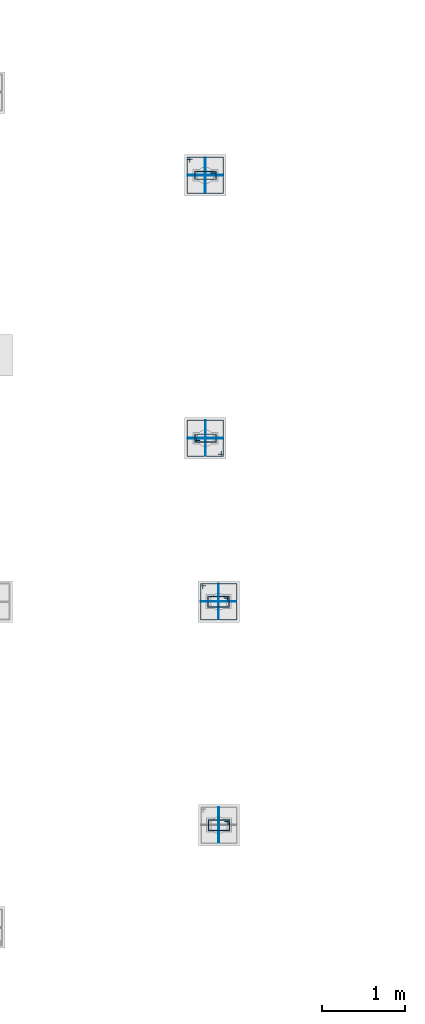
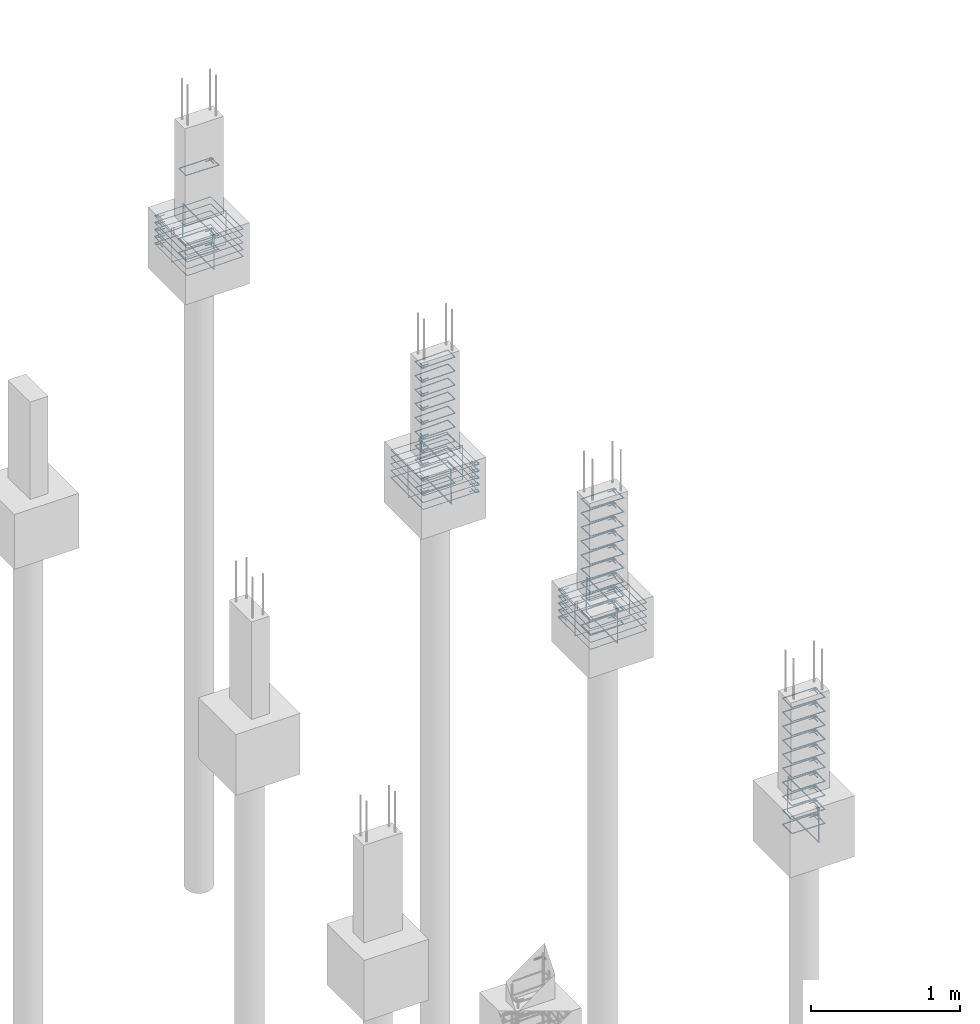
# One storey, part 104 of 119: 55 reinforcing bars.
"""IFC4 building model written with IfcOpenShell, lengths in centimetres."""

from ifc_helpers import new_model, entity, si_unit, derived_unit, frame, origin_with_axes, place, context, project, spatial, source, transform, mapped, element, save


model = new_model("IFC4")

# Units and contexts
model_context = context("Model", 3, precision=1e-05, world=origin_with_axes(), identifier="Body")
ifc_project = project(units=[si_unit("LENGTHUNIT", "METRE", prefix="CENTI"), si_unit("VOLUMEUNIT", "CUBIC_METRE"), si_unit("AREAUNIT", "SQUARE_METRE"), si_unit("POWERUNIT", "WATT"), si_unit("LUMINOUSFLUXUNIT", "LUMEN"), si_unit("ELECTRICCURRENTUNIT", "AMPERE"), si_unit("PRESSUREUNIT", "PASCAL", prefix="KILO"), si_unit("MASSUNIT", "GRAM", prefix="KILO"), si_unit("PLANEANGLEUNIT", "RADIAN"), derived_unit("VOLUMETRICFLOWRATEUNIT", [(si_unit("LENGTHUNIT", "METRE"), 3), (si_unit("TIMEUNIT", "SECOND"), -1)])], contexts=[model_context])

# Site, building, storey
site_placement = place(None, frame((-4000.0, 0.0, 0.0), z_axis=(0.0, 0.0, 1.0), x_axis=(1.0, 0.0, 0.0)))
site = spatial("IfcSite", under=ifc_project, at=site_placement, Name="PADRÃO")
building_placement = place(site_placement, frame((0.0, 0.0, -14.0)))
building = spatial("IfcBuilding", under=site, at=building_placement, Name="CRECHE PRÉ-ESCOLA TIPO 2")
storey_placement = place(building_placement, origin_with_axes())
storey = spatial("IfcBuildingStorey", under=building, at=storey_placement, Name="FUNDAÇÃO", CompositionType="ELEMENT", Elevation=-14.0)

# Reinforcing bars
shared_shape_1 = source(origin_with_axes(), model_context, "Body", "AdvancedSweptSolid", [
    entity("IfcSweptDiskSolid", entity("IfcCompositeCurve", [entity("IfcCompositeCurveSegment", "CONTINUOUS", True, entity("IfcPolyline", [entity("IfcCartesianPoint", [4.25, 21.75, 0.0]), entity("IfcCartesianPoint", [4.25, 27.75, 0.0])])), entity("IfcCompositeCurveSegment", "CONTINUOUS", True, entity("IfcPolyline", [entity("IfcCartesianPoint", [4.25, 27.75, 0.0]), entity("IfcCartesianPoint", [2.25, 27.75, 0.0])])), entity("IfcCompositeCurveSegment", "CONTINUOUS", True, entity("IfcPolyline", [entity("IfcCartesianPoint", [2.25, 27.75, 0.0]), entity("IfcCartesianPoint", [2.25, 2.25, 0.0])])), entity("IfcCompositeCurveSegment", "CONTINUOUS", True, entity("IfcPolyline", [entity("IfcCartesianPoint", [2.25, 2.25, 0.0]), entity("IfcCartesianPoint", [14.75, 2.25, 0.0])])), entity("IfcCompositeCurveSegment", "CONTINUOUS", True, entity("IfcPolyline", [entity("IfcCartesianPoint", [14.75, 2.25, 0.0]), entity("IfcCartesianPoint", [14.75, 27.75, -0.5])])), entity("IfcCompositeCurveSegment", "CONTINUOUS", True, entity("IfcPolyline", [entity("IfcCartesianPoint", [14.75, 27.75, -0.5]), entity("IfcCartesianPoint", [2.25, 27.75, -0.5])])), entity("IfcCompositeCurveSegment", "CONTINUOUS", True, entity("IfcPolyline", [entity("IfcCartesianPoint", [2.25, 27.75, -0.5]), entity("IfcCartesianPoint", [2.25, 25.75, -0.5])])), entity("IfcCompositeCurveSegment", "CONTINUOUS", True, entity("IfcPolyline", [entity("IfcCartesianPoint", [2.25, 25.75, -0.5]), entity("IfcCartesianPoint", [8.25, 25.75, -0.5])]))], False), 0.25),
])
for number, where, z_axis, x_axis, name in (
    (1, (1377.84, 3478.52, -51.75), (0.0, 0.0, 1.0), (0.0, -1.0, 0.0), "P41 - Estribo"),
    (2, (1377.84, 3478.52, -40.25), (0.0, 0.0, 1.0), (0.0, -1.0, 0.0), "P41 - Estribo"),
    (3, (1377.84, 3478.52, -28.75), (0.0, 0.0, 1.0), (0.0, -1.0, 0.0), "P41 - Estribo"),
    (4, (1377.84, 3478.52, -63.25), (0.0, 0.0, 1.0), (0.0, -1.0, 0.0), "P41 - Estribo"),
    (5, (1377.84, 3478.52, -86.25), (0.0, 0.0, 1.0), (0.0, -1.0, 0.0), "P41 - Estribo"),
    (6, (1377.84, 3478.52, -5.75), (0.0, 0.0, 1.0), (0.0, -1.0, 0.0), "P41 - Estribo"),
    (7, (1377.84, 3478.52, -17.25), (0.0, 0.0, 1.0), (0.0, -1.0, 0.0), "P41 - Estribo"),
    (8, (1377.84, 3478.52, -97.75), (0.0, 0.0, 1.0), (0.0, -1.0, 0.0), "P41 - Estribo"),
    (9, (1377.84, 3478.52, -109.25), (0.0, 0.0, 1.0), (0.0, -1.0, 0.0), "P41 - Estribo"),
    (10, (1377.84, 3478.52, -74.75), (0.0, 0.0, 1.0), (0.0, -1.0, 0.0), "P41 - Estribo"),
):
    element("IfcReinforcingBar", number, at=place(storey_placement, frame(where, z_axis=z_axis, x_axis=x_axis)), inside=storey, Name=name, BarLength=0.0, CrossSectionArea=1.9634954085e-05, NominalDiameter=0.5, PredefinedType="MAIN", context=model_context, shape_type="MappedRepresentation", body=[
        mapped(shared_shape_1, transform((0.0, 0.0, 0.0), scale=1.0)),
    ])
shared_shape_2 = source(origin_with_axes(), model_context, "Body", "AdvancedSweptSolid", [
    entity("IfcSweptDiskSolid", entity("IfcCompositeCurve", [entity("IfcCompositeCurveSegment", "CONTINUOUS", True, entity("IfcPolyline", [entity("IfcCartesianPoint", [1373.675, 3485.445, 0.0]), entity("IfcCartesianPoint", [1373.675, 3491.705, 0.0])])), entity("IfcCompositeCurveSegment", "CONTINUOUS", True, entity("IfcPolyline", [entity("IfcCartesianPoint", [1373.675, 3491.705, 0.0]), entity("IfcCartesianPoint", [1371.155, 3491.705, 0.0])])), entity("IfcCompositeCurveSegment", "CONTINUOUS", True, entity("IfcPolyline", [entity("IfcCartesianPoint", [1371.155, 3491.705, 0.0]), entity("IfcCartesianPoint", [1371.155, 3448.335, 0.0])])), entity("IfcCompositeCurveSegment", "CONTINUOUS", True, entity("IfcPolyline", [entity("IfcCartesianPoint", [1371.155, 3448.335, 0.0]), entity("IfcCartesianPoint", [1414.525, 3448.335, 0.63])])), entity("IfcCompositeCurveSegment", "CONTINUOUS", True, entity("IfcPolyline", [entity("IfcCartesianPoint", [1414.525, 3448.335, 0.63]), entity("IfcCartesianPoint", [1414.525, 3491.705, 0.63])])), entity("IfcCompositeCurveSegment", "CONTINUOUS", True, entity("IfcPolyline", [entity("IfcCartesianPoint", [1414.525, 3491.705, 0.63]), entity("IfcCartesianPoint", [1371.155, 3491.705, 0.63])])), entity("IfcCompositeCurveSegment", "CONTINUOUS", True, entity("IfcPolyline", [entity("IfcCartesianPoint", [1371.155, 3491.705, 0.63]), entity("IfcCartesianPoint", [1371.155, 3489.185, 0.63])])), entity("IfcCompositeCurveSegment", "CONTINUOUS", True, entity("IfcPolyline", [entity("IfcCartesianPoint", [1371.155, 3489.185, 0.63]), entity("IfcCartesianPoint", [1377.415, 3489.185, 0.63])]))], False), 0.315),
])
for number, where, z_axis, x_axis, name in (
    (11, (0.0, 0.0, -86.575), (0.0, 0.0, 1.0), (1.0, 0.0, 0.0), "P41 - Blocos (estribos)"),
    (12, (0.0, 0.0, -92.225), (0.0, 0.0, 1.0), (1.0, 0.0, 0.0), "P41 - Blocos (estribos)"),
    (13, (0.0, 0.0, -97.875), (0.0, 0.0, 1.0), (1.0, 0.0, 0.0), "P41 - Blocos (estribos)"),
    (14, (0.0, 0.0, -103.525), (0.0, 0.0, 1.0), (1.0, 0.0, 0.0), "P41 - Blocos (estribos)"),
    (15, (0.0, 0.0, -109.175), (0.0, 0.0, 1.0), (1.0, 0.0, 0.0), "P41 - Blocos (estribos)"),
):
    element("IfcReinforcingBar", number, at=place(storey_placement, frame(where, z_axis=z_axis, x_axis=x_axis)), inside=storey, Name=name, BarLength=0.0, CrossSectionArea=3.1172453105e-05, NominalDiameter=0.63, PredefinedType="MAIN", context=model_context, shape_type="MappedRepresentation", body=[
        mapped(shared_shape_2, transform((0.0, 0.0, 0.0), scale=1.0)),
    ])
shared_shape_3 = source(origin_with_axes(), model_context, "Body", "AdvancedSweptSolid", [
    entity("IfcSweptDiskSolid", entity("IfcCompositeCurve", [entity("IfcCompositeCurveSegment", "CONTINUOUS", True, entity("IfcPolyline", [entity("IfcCartesianPoint", [-15.12, -12.0, 0.0]), entity("IfcCartesianPoint", [-21.12, -12.0, 0.0])])), entity("IfcCompositeCurveSegment", "CONTINUOUS", True, entity("IfcPolyline", [entity("IfcCartesianPoint", [-21.12, -12.0, 0.0]), entity("IfcCartesianPoint", [-21.12, -14.0, 0.0])])), entity("IfcCompositeCurveSegment", "CONTINUOUS", True, entity("IfcPolyline", [entity("IfcCartesianPoint", [-21.12, -14.0, 0.0]), entity("IfcCartesianPoint", [21.12, -14.0, 0.0])])), entity("IfcCompositeCurveSegment", "CONTINUOUS", True, entity("IfcPolyline", [entity("IfcCartesianPoint", [21.12, -14.0, 0.0]), entity("IfcCartesianPoint", [21.12, 14.0, 0.5])])), entity("IfcCompositeCurveSegment", "CONTINUOUS", True, entity("IfcPolyline", [entity("IfcCartesianPoint", [21.12, 14.0, 0.5]), entity("IfcCartesianPoint", [-21.12, 14.0, 0.5])])), entity("IfcCompositeCurveSegment", "CONTINUOUS", True, entity("IfcPolyline", [entity("IfcCartesianPoint", [-21.12, 14.0, 0.5]), entity("IfcCartesianPoint", [-21.12, -14.0, 0.5])])), entity("IfcCompositeCurveSegment", "CONTINUOUS", True, entity("IfcPolyline", [entity("IfcCartesianPoint", [-21.12, -14.0, 0.5]), entity("IfcCartesianPoint", [-19.12, -14.0, 0.5])])), entity("IfcCompositeCurveSegment", "CONTINUOUS", True, entity("IfcPolyline", [entity("IfcCartesianPoint", [-19.12, -14.0, 0.5]), entity("IfcCartesianPoint", [-19.12, -8.0, 0.5])]))], False), 0.25),
])
reinforcing_bar_1_placement = place(storey_placement, frame((1392.84, 3470.02, -97.75), z_axis=(0.0, 1.0, 0.0), x_axis=(1.0, 0.0, 0.0)))
element("IfcReinforcingBar", 16, at=reinforcing_bar_1_placement, inside=storey, Name="P41 - Blocos (estribos)", BarLength=0.0, CrossSectionArea=1.9634954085e-05, NominalDiameter=0.5, PredefinedType="MAIN", context=model_context, shape_type="MappedRepresentation", body=[
    mapped(shared_shape_3, transform((0.0, 0.0, 0.0), scale=1.0)),
])
shared_shape_4 = source(origin_with_axes(), model_context, "Body", "AdvancedSweptSolid", [
    entity("IfcSweptDiskSolid", entity("IfcCompositeCurve", [entity("IfcCompositeCurveSegment", "CONTINUOUS", True, entity("IfcPolyline", [entity("IfcCartesianPoint", [-15.12, -12.0, 0.0]), entity("IfcCartesianPoint", [-21.12, -12.0, 0.0])])), entity("IfcCompositeCurveSegment", "CONTINUOUS", True, entity("IfcPolyline", [entity("IfcCartesianPoint", [-21.12, -12.0, 0.0]), entity("IfcCartesianPoint", [-21.12, -14.0, 0.0])])), entity("IfcCompositeCurveSegment", "CONTINUOUS", True, entity("IfcPolyline", [entity("IfcCartesianPoint", [-21.12, -14.0, 0.0]), entity("IfcCartesianPoint", [21.12, -14.0, 0.0])])), entity("IfcCompositeCurveSegment", "CONTINUOUS", True, entity("IfcPolyline", [entity("IfcCartesianPoint", [21.12, -14.0, 0.0]), entity("IfcCartesianPoint", [21.12, 14.0, 0.5])])), entity("IfcCompositeCurveSegment", "CONTINUOUS", True, entity("IfcPolyline", [entity("IfcCartesianPoint", [21.12, 14.0, 0.5]), entity("IfcCartesianPoint", [-21.12, 14.0, 0.5])])), entity("IfcCompositeCurveSegment", "CONTINUOUS", True, entity("IfcPolyline", [entity("IfcCartesianPoint", [-21.12, 14.0, 0.5]), entity("IfcCartesianPoint", [-21.12, -14.0, 0.5])])), entity("IfcCompositeCurveSegment", "CONTINUOUS", True, entity("IfcPolyline", [entity("IfcCartesianPoint", [-21.12, -14.0, 0.5]), entity("IfcCartesianPoint", [-19.12, -14.0, 0.5])])), entity("IfcCompositeCurveSegment", "CONTINUOUS", True, entity("IfcPolyline", [entity("IfcCartesianPoint", [-19.12, -14.0, 0.5]), entity("IfcCartesianPoint", [-19.12, -8.0, 0.5])]))], False), 0.25),
])
reinforcing_bar_2_placement = place(storey_placement, frame((1392.84, 3470.02, -97.75), z_axis=(-1.0, 0.0, 0.0), x_axis=(0.0, 1.0, 0.0)))
element("IfcReinforcingBar", 17, at=reinforcing_bar_2_placement, inside=storey, Name="P41 - Blocos (estribos)", BarLength=0.0, CrossSectionArea=1.9634954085e-05, NominalDiameter=0.5, PredefinedType="MAIN", context=model_context, shape_type="MappedRepresentation", body=[
    mapped(shared_shape_4, transform((0.0, 0.0, 0.0), scale=1.0)),
])
shared_shape_5 = source(origin_with_axes(), model_context, "Body", "AdvancedSweptSolid", [
    entity("IfcSweptDiskSolid", entity("IfcCompositeCurve", [entity("IfcCompositeCurveSegment", "CONTINUOUS", True, entity("IfcPolyline", [entity("IfcCartesianPoint", [4.25, 21.75, 0.0]), entity("IfcCartesianPoint", [4.25, 27.75, 0.0])])), entity("IfcCompositeCurveSegment", "CONTINUOUS", True, entity("IfcPolyline", [entity("IfcCartesianPoint", [4.25, 27.75, 0.0]), entity("IfcCartesianPoint", [2.25, 27.75, 0.0])])), entity("IfcCompositeCurveSegment", "CONTINUOUS", True, entity("IfcPolyline", [entity("IfcCartesianPoint", [2.25, 27.75, 0.0]), entity("IfcCartesianPoint", [2.25, 2.25, 0.0])])), entity("IfcCompositeCurveSegment", "CONTINUOUS", True, entity("IfcPolyline", [entity("IfcCartesianPoint", [2.25, 2.25, 0.0]), entity("IfcCartesianPoint", [14.75, 2.25, 0.0])])), entity("IfcCompositeCurveSegment", "CONTINUOUS", True, entity("IfcPolyline", [entity("IfcCartesianPoint", [14.75, 2.25, 0.0]), entity("IfcCartesianPoint", [14.75, 27.75, -0.5])])), entity("IfcCompositeCurveSegment", "CONTINUOUS", True, entity("IfcPolyline", [entity("IfcCartesianPoint", [14.75, 27.75, -0.5]), entity("IfcCartesianPoint", [2.25, 27.75, -0.5])])), entity("IfcCompositeCurveSegment", "CONTINUOUS", True, entity("IfcPolyline", [entity("IfcCartesianPoint", [2.25, 27.75, -0.5]), entity("IfcCartesianPoint", [2.25, 25.75, -0.5])])), entity("IfcCompositeCurveSegment", "CONTINUOUS", True, entity("IfcPolyline", [entity("IfcCartesianPoint", [2.25, 25.75, -0.5]), entity("IfcCartesianPoint", [8.25, 25.75, -0.5])]))], False), 0.25),
])
for number, where, z_axis, x_axis, name in (
    (18, (1378.25, 3208.52, -17.25), (0.0, 0.0, 1.0), (0.0, -1.0, 0.0), "P51 - Estribo"),
    (19, (1378.25, 3208.52, -109.25), (0.0, 0.0, 1.0), (0.0, -1.0, 0.0), "P51 - Estribo"),
    (20, (1378.25, 3208.52, -97.75), (0.0, 0.0, 1.0), (0.0, -1.0, 0.0), "P51 - Estribo"),
    (21, (1378.25, 3208.52, -86.25), (0.0, 0.0, 1.0), (0.0, -1.0, 0.0), "P51 - Estribo"),
    (22, (1378.25, 3208.52, -74.75), (0.0, 0.0, 1.0), (0.0, -1.0, 0.0), "P51 - Estribo"),
    (23, (1378.25, 3208.52, -40.25), (0.0, 0.0, 1.0), (0.0, -1.0, 0.0), "P51 - Estribo"),
    (24, (1378.25, 3208.52, -63.25), (0.0, 0.0, 1.0), (0.0, -1.0, 0.0), "P51 - Estribo"),
    (25, (1378.25, 3208.52, -51.75), (0.0, 0.0, 1.0), (0.0, -1.0, 0.0), "P51 - Estribo"),
    (26, (1378.25, 3208.52, -5.75), (0.0, 0.0, 1.0), (0.0, -1.0, 0.0), "P51 - Estribo"),
    (27, (1378.25, 3208.52, -28.75), (0.0, 0.0, 1.0), (0.0, -1.0, 0.0), "P51 - Estribo"),
):
    element("IfcReinforcingBar", number, at=place(storey_placement, frame(where, z_axis=z_axis, x_axis=x_axis)), inside=storey, Name=name, BarLength=0.0, CrossSectionArea=1.9634954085e-05, NominalDiameter=0.5, PredefinedType="MAIN", context=model_context, shape_type="MappedRepresentation", body=[
        mapped(shared_shape_5, transform((0.0, 0.0, 0.0), scale=1.0)),
    ])
shared_shape_6 = source(origin_with_axes(), model_context, "Body", "AdvancedSweptSolid", [
    entity("IfcSweptDiskSolid", entity("IfcCompositeCurve", [entity("IfcCompositeCurveSegment", "CONTINUOUS", True, entity("IfcPolyline", [entity("IfcCartesianPoint", [-15.12, -12.0, 0.0]), entity("IfcCartesianPoint", [-21.12, -12.0, 0.0])])), entity("IfcCompositeCurveSegment", "CONTINUOUS", True, entity("IfcPolyline", [entity("IfcCartesianPoint", [-21.12, -12.0, 0.0]), entity("IfcCartesianPoint", [-21.12, -14.0, 0.0])])), entity("IfcCompositeCurveSegment", "CONTINUOUS", True, entity("IfcPolyline", [entity("IfcCartesianPoint", [-21.12, -14.0, 0.0]), entity("IfcCartesianPoint", [21.12, -14.0, 0.0])])), entity("IfcCompositeCurveSegment", "CONTINUOUS", True, entity("IfcPolyline", [entity("IfcCartesianPoint", [21.12, -14.0, 0.0]), entity("IfcCartesianPoint", [21.12, 14.0, 0.5])])), entity("IfcCompositeCurveSegment", "CONTINUOUS", True, entity("IfcPolyline", [entity("IfcCartesianPoint", [21.12, 14.0, 0.5]), entity("IfcCartesianPoint", [-21.12, 14.0, 0.5])])), entity("IfcCompositeCurveSegment", "CONTINUOUS", True, entity("IfcPolyline", [entity("IfcCartesianPoint", [-21.12, 14.0, 0.5]), entity("IfcCartesianPoint", [-21.12, -14.0, 0.5])])), entity("IfcCompositeCurveSegment", "CONTINUOUS", True, entity("IfcPolyline", [entity("IfcCartesianPoint", [-21.12, -14.0, 0.5]), entity("IfcCartesianPoint", [-19.12, -14.0, 0.5])])), entity("IfcCompositeCurveSegment", "CONTINUOUS", True, entity("IfcPolyline", [entity("IfcCartesianPoint", [-19.12, -14.0, 0.5]), entity("IfcCartesianPoint", [-19.12, -8.0, 0.5])]))], False), 0.25),
])
reinforcing_bar_3_placement = place(storey_placement, frame((1393.25, 3200.02, -97.75), z_axis=(-1.0, 0.0, 0.0), x_axis=(0.0, 1.0, 0.0)))
element("IfcReinforcingBar", 28, at=reinforcing_bar_3_placement, inside=storey, Name="P51 - Blocos (estribos)", BarLength=0.0, CrossSectionArea=1.9634954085e-05, NominalDiameter=0.5, PredefinedType="MAIN", context=model_context, shape_type="MappedRepresentation", body=[
    mapped(shared_shape_6, transform((0.0, 0.0, 0.0), scale=1.0)),
])
shared_shape_7 = source(origin_with_axes(), model_context, "Body", "AdvancedSweptSolid", [
    entity("IfcSweptDiskSolid", entity("IfcCompositeCurve", [entity("IfcCompositeCurveSegment", "CONTINUOUS", True, entity("IfcPolyline", [entity("IfcCartesianPoint", [4.25, 21.75, 0.0]), entity("IfcCartesianPoint", [4.25, 27.75, 0.0])])), entity("IfcCompositeCurveSegment", "CONTINUOUS", True, entity("IfcPolyline", [entity("IfcCartesianPoint", [4.25, 27.75, 0.0]), entity("IfcCartesianPoint", [2.25, 27.75, 0.0])])), entity("IfcCompositeCurveSegment", "CONTINUOUS", True, entity("IfcPolyline", [entity("IfcCartesianPoint", [2.25, 27.75, 0.0]), entity("IfcCartesianPoint", [2.25, 2.25, 0.0])])), entity("IfcCompositeCurveSegment", "CONTINUOUS", True, entity("IfcPolyline", [entity("IfcCartesianPoint", [2.25, 2.25, 0.0]), entity("IfcCartesianPoint", [11.75, 2.25, 0.0])])), entity("IfcCompositeCurveSegment", "CONTINUOUS", True, entity("IfcPolyline", [entity("IfcCartesianPoint", [11.75, 2.25, 0.0]), entity("IfcCartesianPoint", [11.75, 27.75, -0.5])])), entity("IfcCompositeCurveSegment", "CONTINUOUS", True, entity("IfcPolyline", [entity("IfcCartesianPoint", [11.75, 27.75, -0.5]), entity("IfcCartesianPoint", [2.25, 27.75, -0.5])])), entity("IfcCompositeCurveSegment", "CONTINUOUS", True, entity("IfcPolyline", [entity("IfcCartesianPoint", [2.25, 27.75, -0.5]), entity("IfcCartesianPoint", [2.25, 25.75, -0.5])])), entity("IfcCompositeCurveSegment", "CONTINUOUS", True, entity("IfcPolyline", [entity("IfcCartesianPoint", [2.25, 25.75, -0.5]), entity("IfcCartesianPoint", [8.25, 25.75, -0.5])]))], False), 0.25),
])
for number, where, z_axis, x_axis, name in (
    (29, (1391.84, 3660.5, -5.75), (0.0, 0.0, 1.0), (0.0, 1.0, 0.0), "P33 - Estribo"),
    (30, (1391.84, 3660.5, -17.25), (0.0, 0.0, 1.0), (0.0, 1.0, 0.0), "P33 - Estribo"),
    (31, (1391.84, 3660.5, -28.75), (0.0, 0.0, 1.0), (0.0, 1.0, 0.0), "P33 - Estribo"),
    (32, (1391.84, 3660.5, -40.25), (0.0, 0.0, 1.0), (0.0, 1.0, 0.0), "P33 - Estribo"),
    (33, (1391.84, 3660.5, -51.75), (0.0, 0.0, 1.0), (0.0, 1.0, 0.0), "P33 - Estribo"),
    (34, (1391.84, 3660.5, -63.25), (0.0, 0.0, 1.0), (0.0, 1.0, 0.0), "P33 - Estribo"),
    (35, (1391.84, 3660.5, -74.75), (0.0, 0.0, 1.0), (0.0, 1.0, 0.0), "P33 - Estribo"),
    (36, (1391.84, 3660.5, -86.25), (0.0, 0.0, 1.0), (0.0, 1.0, 0.0), "P33 - Estribo"),
    (37, (1391.84, 3660.5, -109.25), (0.0, 0.0, 1.0), (0.0, 1.0, 0.0), "P33 - Estribo"),
    (38, (1391.84, 3660.5, -97.75), (0.0, 0.0, 1.0), (0.0, 1.0, 0.0), "P33 - Estribo"),
):
    element("IfcReinforcingBar", number, at=place(storey_placement, frame(where, z_axis=z_axis, x_axis=x_axis)), inside=storey, Name=name, BarLength=0.0, CrossSectionArea=1.9634954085e-05, NominalDiameter=0.5, PredefinedType="MAIN", context=model_context, shape_type="MappedRepresentation", body=[
        mapped(shared_shape_7, transform((0.0, 0.0, 0.0), scale=1.0)),
    ])
shared_shape_8 = source(origin_with_axes(), model_context, "Body", "AdvancedSweptSolid", [
    entity("IfcSweptDiskSolid", entity("IfcCompositeCurve", [entity("IfcCompositeCurveSegment", "CONTINUOUS", True, entity("IfcPolyline", [entity("IfcCartesianPoint", [1396.005, 3652.075, 0.0]), entity("IfcCartesianPoint", [1396.005, 3645.815, 0.0])])), entity("IfcCompositeCurveSegment", "CONTINUOUS", True, entity("IfcPolyline", [entity("IfcCartesianPoint", [1396.005, 3645.815, 0.0]), entity("IfcCartesianPoint", [1398.525, 3645.815, 0.0])])), entity("IfcCompositeCurveSegment", "CONTINUOUS", True, entity("IfcPolyline", [entity("IfcCartesianPoint", [1398.525, 3645.815, 0.0]), entity("IfcCartesianPoint", [1398.525, 3689.185, 0.0])])), entity("IfcCompositeCurveSegment", "CONTINUOUS", True, entity("IfcPolyline", [entity("IfcCartesianPoint", [1398.525, 3689.185, 0.0]), entity("IfcCartesianPoint", [1355.155, 3689.185, 0.63])])), entity("IfcCompositeCurveSegment", "CONTINUOUS", True, entity("IfcPolyline", [entity("IfcCartesianPoint", [1355.155, 3689.185, 0.63]), entity("IfcCartesianPoint", [1355.155, 3645.815, 0.63])])), entity("IfcCompositeCurveSegment", "CONTINUOUS", True, entity("IfcPolyline", [entity("IfcCartesianPoint", [1355.155, 3645.815, 0.63]), entity("IfcCartesianPoint", [1398.525, 3645.815, 0.63])])), entity("IfcCompositeCurveSegment", "CONTINUOUS", True, entity("IfcPolyline", [entity("IfcCartesianPoint", [1398.525, 3645.815, 0.63]), entity("IfcCartesianPoint", [1398.525, 3648.335, 0.63])])), entity("IfcCompositeCurveSegment", "CONTINUOUS", True, entity("IfcPolyline", [entity("IfcCartesianPoint", [1398.525, 3648.335, 0.63]), entity("IfcCartesianPoint", [1392.265, 3648.335, 0.63])]))], False), 0.315),
])
for number, where, z_axis, x_axis, name in (
    (39, (0.0, 0.0, -86.575), (0.0, 0.0, 1.0), (1.0, 0.0, 0.0), "P33 - Blocos (estribos)"),
    (40, (0.0, 0.0, -92.225), (0.0, 0.0, 1.0), (1.0, 0.0, 0.0), "P33 - Blocos (estribos)"),
    (41, (0.0, 0.0, -97.875), (0.0, 0.0, 1.0), (1.0, 0.0, 0.0), "P33 - Blocos (estribos)"),
    (42, (0.0, 0.0, -103.525), (0.0, 0.0, 1.0), (1.0, 0.0, 0.0), "P33 - Blocos (estribos)"),
    (43, (0.0, 0.0, -109.175), (0.0, 0.0, 1.0), (1.0, 0.0, 0.0), "P33 - Blocos (estribos)"),
):
    element("IfcReinforcingBar", number, at=place(storey_placement, frame(where, z_axis=z_axis, x_axis=x_axis)), inside=storey, Name=name, BarLength=0.0, CrossSectionArea=3.1172453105e-05, NominalDiameter=0.63, PredefinedType="MAIN", context=model_context, shape_type="MappedRepresentation", body=[
        mapped(shared_shape_8, transform((0.0, 0.0, 0.0), scale=1.0)),
    ])
shared_shape_9 = source(origin_with_axes(), model_context, "Body", "AdvancedSweptSolid", [
    entity("IfcSweptDiskSolid", entity("IfcCompositeCurve", [entity("IfcCompositeCurveSegment", "CONTINUOUS", True, entity("IfcPolyline", [entity("IfcCartesianPoint", [-15.12, -12.0, 0.0]), entity("IfcCartesianPoint", [-21.12, -12.0, 0.0])])), entity("IfcCompositeCurveSegment", "CONTINUOUS", True, entity("IfcPolyline", [entity("IfcCartesianPoint", [-21.12, -12.0, 0.0]), entity("IfcCartesianPoint", [-21.12, -14.0, 0.0])])), entity("IfcCompositeCurveSegment", "CONTINUOUS", True, entity("IfcPolyline", [entity("IfcCartesianPoint", [-21.12, -14.0, 0.0]), entity("IfcCartesianPoint", [21.12, -14.0, 0.0])])), entity("IfcCompositeCurveSegment", "CONTINUOUS", True, entity("IfcPolyline", [entity("IfcCartesianPoint", [21.12, -14.0, 0.0]), entity("IfcCartesianPoint", [21.12, 14.0, 0.5])])), entity("IfcCompositeCurveSegment", "CONTINUOUS", True, entity("IfcPolyline", [entity("IfcCartesianPoint", [21.12, 14.0, 0.5]), entity("IfcCartesianPoint", [-21.12, 14.0, 0.5])])), entity("IfcCompositeCurveSegment", "CONTINUOUS", True, entity("IfcPolyline", [entity("IfcCartesianPoint", [-21.12, 14.0, 0.5]), entity("IfcCartesianPoint", [-21.12, -14.0, 0.5])])), entity("IfcCompositeCurveSegment", "CONTINUOUS", True, entity("IfcPolyline", [entity("IfcCartesianPoint", [-21.12, -14.0, 0.5]), entity("IfcCartesianPoint", [-19.12, -14.0, 0.5])])), entity("IfcCompositeCurveSegment", "CONTINUOUS", True, entity("IfcPolyline", [entity("IfcCartesianPoint", [-19.12, -14.0, 0.5]), entity("IfcCartesianPoint", [-19.12, -8.0, 0.5])]))], False), 0.25),
])
reinforcing_bar_4_placement = place(storey_placement, frame((1376.84, 3667.5, -97.75), z_axis=(0.0, -1.0, 0.0), x_axis=(-1.0, 0.0, 0.0)))
element("IfcReinforcingBar", 44, at=reinforcing_bar_4_placement, inside=storey, Name="P33 - Blocos (estribos)", BarLength=0.0, CrossSectionArea=1.9634954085e-05, NominalDiameter=0.5, PredefinedType="MAIN", context=model_context, shape_type="MappedRepresentation", body=[
    mapped(shared_shape_9, transform((0.0, 0.0, 0.0), scale=1.0)),
])
shared_shape_10 = source(origin_with_axes(), model_context, "Body", "AdvancedSweptSolid", [
    entity("IfcSweptDiskSolid", entity("IfcCompositeCurve", [entity("IfcCompositeCurveSegment", "CONTINUOUS", True, entity("IfcPolyline", [entity("IfcCartesianPoint", [-15.12, -12.0, 0.0]), entity("IfcCartesianPoint", [-21.12, -12.0, 0.0])])), entity("IfcCompositeCurveSegment", "CONTINUOUS", True, entity("IfcPolyline", [entity("IfcCartesianPoint", [-21.12, -12.0, 0.0]), entity("IfcCartesianPoint", [-21.12, -14.0, 0.0])])), entity("IfcCompositeCurveSegment", "CONTINUOUS", True, entity("IfcPolyline", [entity("IfcCartesianPoint", [-21.12, -14.0, 0.0]), entity("IfcCartesianPoint", [21.12, -14.0, 0.0])])), entity("IfcCompositeCurveSegment", "CONTINUOUS", True, entity("IfcPolyline", [entity("IfcCartesianPoint", [21.12, -14.0, 0.0]), entity("IfcCartesianPoint", [21.12, 14.0, 0.5])])), entity("IfcCompositeCurveSegment", "CONTINUOUS", True, entity("IfcPolyline", [entity("IfcCartesianPoint", [21.12, 14.0, 0.5]), entity("IfcCartesianPoint", [-21.12, 14.0, 0.5])])), entity("IfcCompositeCurveSegment", "CONTINUOUS", True, entity("IfcPolyline", [entity("IfcCartesianPoint", [-21.12, 14.0, 0.5]), entity("IfcCartesianPoint", [-21.12, -14.0, 0.5])])), entity("IfcCompositeCurveSegment", "CONTINUOUS", True, entity("IfcPolyline", [entity("IfcCartesianPoint", [-21.12, -14.0, 0.5]), entity("IfcCartesianPoint", [-19.12, -14.0, 0.5])])), entity("IfcCompositeCurveSegment", "CONTINUOUS", True, entity("IfcPolyline", [entity("IfcCartesianPoint", [-19.12, -14.0, 0.5]), entity("IfcCartesianPoint", [-19.12, -8.0, 0.5])]))], False), 0.25),
])
reinforcing_bar_5_placement = place(storey_placement, frame((1376.84, 3667.5, -97.75), z_axis=(1.0, 0.0, 0.0), x_axis=(0.0, -1.0, 0.0)))
element("IfcReinforcingBar", 45, at=reinforcing_bar_5_placement, inside=storey, Name="P33 - Blocos (estribos)", BarLength=0.0, CrossSectionArea=1.9634954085e-05, NominalDiameter=0.5, PredefinedType="MAIN", context=model_context, shape_type="MappedRepresentation", body=[
    mapped(shared_shape_10, transform((0.0, 0.0, 0.0), scale=1.0)),
])
shared_shape_11 = source(origin_with_axes(), model_context, "Body", "AdvancedSweptSolid", [
    entity("IfcSweptDiskSolid", entity("IfcCompositeCurve", [entity("IfcCompositeCurveSegment", "CONTINUOUS", True, entity("IfcPolyline", [entity("IfcCartesianPoint", [4.25, 21.75, 0.0]), entity("IfcCartesianPoint", [4.25, 27.75, 0.0])])), entity("IfcCompositeCurveSegment", "CONTINUOUS", True, entity("IfcPolyline", [entity("IfcCartesianPoint", [4.25, 27.75, 0.0]), entity("IfcCartesianPoint", [2.25, 27.75, 0.0])])), entity("IfcCompositeCurveSegment", "CONTINUOUS", True, entity("IfcPolyline", [entity("IfcCartesianPoint", [2.25, 27.75, 0.0]), entity("IfcCartesianPoint", [2.25, 2.25, 0.0])])), entity("IfcCompositeCurveSegment", "CONTINUOUS", True, entity("IfcPolyline", [entity("IfcCartesianPoint", [2.25, 2.25, 0.0]), entity("IfcCartesianPoint", [11.75, 2.25, 0.0])])), entity("IfcCompositeCurveSegment", "CONTINUOUS", True, entity("IfcPolyline", [entity("IfcCartesianPoint", [11.75, 2.25, 0.0]), entity("IfcCartesianPoint", [11.75, 27.75, -0.5])])), entity("IfcCompositeCurveSegment", "CONTINUOUS", True, entity("IfcPolyline", [entity("IfcCartesianPoint", [11.75, 27.75, -0.5]), entity("IfcCartesianPoint", [2.25, 27.75, -0.5])])), entity("IfcCompositeCurveSegment", "CONTINUOUS", True, entity("IfcPolyline", [entity("IfcCartesianPoint", [2.25, 27.75, -0.5]), entity("IfcCartesianPoint", [2.25, 25.75, -0.5])])), entity("IfcCompositeCurveSegment", "CONTINUOUS", True, entity("IfcPolyline", [entity("IfcCartesianPoint", [2.25, 25.75, -0.5]), entity("IfcCartesianPoint", [8.25, 25.75, -0.5])]))], False), 0.25),
])
for number, where, z_axis, x_axis, name in (
    (46, (1361.84, 3992.0, -97.75), (0.0, 0.0, 1.0), (0.0, -1.0, 0.0), "P25 - Estribo"),
    (47, (1361.84, 3992.0, -109.25), (0.0, 0.0, 1.0), (0.0, -1.0, 0.0), "P25 - Estribo"),
    (48, (1361.84, 3992.0, -40.25), (0.0, 0.0, 1.0), (0.0, -1.0, 0.0), "P25 - Estribo"),
):
    element("IfcReinforcingBar", number, at=place(storey_placement, frame(where, z_axis=z_axis, x_axis=x_axis)), inside=storey, Name=name, BarLength=0.0, CrossSectionArea=1.9634954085e-05, NominalDiameter=0.5, PredefinedType="MAIN", context=model_context, shape_type="MappedRepresentation", body=[
        mapped(shared_shape_11, transform((0.0, 0.0, 0.0), scale=1.0)),
    ])
shared_shape_12 = source(origin_with_axes(), model_context, "Body", "AdvancedSweptSolid", [
    entity("IfcSweptDiskSolid", entity("IfcCompositeCurve", [entity("IfcCompositeCurveSegment", "CONTINUOUS", True, entity("IfcPolyline", [entity("IfcCartesianPoint", [1357.675, 4000.425, 0.0]), entity("IfcCartesianPoint", [1357.675, 4006.685, 0.0])])), entity("IfcCompositeCurveSegment", "CONTINUOUS", True, entity("IfcPolyline", [entity("IfcCartesianPoint", [1357.675, 4006.685, 0.0]), entity("IfcCartesianPoint", [1355.155, 4006.685, 0.0])])), entity("IfcCompositeCurveSegment", "CONTINUOUS", True, entity("IfcPolyline", [entity("IfcCartesianPoint", [1355.155, 4006.685, 0.0]), entity("IfcCartesianPoint", [1355.155, 3963.315, 0.0])])), entity("IfcCompositeCurveSegment", "CONTINUOUS", True, entity("IfcPolyline", [entity("IfcCartesianPoint", [1355.155, 3963.315, 0.0]), entity("IfcCartesianPoint", [1398.525, 3963.315, 0.63])])), entity("IfcCompositeCurveSegment", "CONTINUOUS", True, entity("IfcPolyline", [entity("IfcCartesianPoint", [1398.525, 3963.315, 0.63]), entity("IfcCartesianPoint", [1398.525, 4006.685, 0.63])])), entity("IfcCompositeCurveSegment", "CONTINUOUS", True, entity("IfcPolyline", [entity("IfcCartesianPoint", [1398.525, 4006.685, 0.63]), entity("IfcCartesianPoint", [1355.155, 4006.685, 0.63])])), entity("IfcCompositeCurveSegment", "CONTINUOUS", True, entity("IfcPolyline", [entity("IfcCartesianPoint", [1355.155, 4006.685, 0.63]), entity("IfcCartesianPoint", [1355.155, 4004.165, 0.63])])), entity("IfcCompositeCurveSegment", "CONTINUOUS", True, entity("IfcPolyline", [entity("IfcCartesianPoint", [1355.155, 4004.165, 0.63]), entity("IfcCartesianPoint", [1361.415, 4004.165, 0.63])]))], False), 0.315),
])
for number, where, z_axis, x_axis, name in (
    (49, (0.0, 0.0, -92.225), (0.0, 0.0, 1.0), (1.0, 0.0, 0.0), "P25 - Blocos (estribos)"),
    (50, (0.0, 0.0, -97.875), (0.0, 0.0, 1.0), (1.0, 0.0, 0.0), "P25 - Blocos (estribos)"),
    (51, (0.0, 0.0, -103.525), (0.0, 0.0, 1.0), (1.0, 0.0, 0.0), "P25 - Blocos (estribos)"),
    (52, (0.0, 0.0, -109.175), (0.0, 0.0, 1.0), (1.0, 0.0, 0.0), "P25 - Blocos (estribos)"),
    (53, (0.0, 0.0, -86.575), (0.0, 0.0, 1.0), (1.0, 0.0, 0.0), "P25 - Blocos (estribos)"),
):
    element("IfcReinforcingBar", number, at=place(storey_placement, frame(where, z_axis=z_axis, x_axis=x_axis)), inside=storey, Name=name, BarLength=0.0, CrossSectionArea=3.1172453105e-05, NominalDiameter=0.63, PredefinedType="MAIN", context=model_context, shape_type="MappedRepresentation", body=[
        mapped(shared_shape_12, transform((0.0, 0.0, 0.0), scale=1.0)),
    ])
shared_shape_13 = source(origin_with_axes(), model_context, "Body", "AdvancedSweptSolid", [
    entity("IfcSweptDiskSolid", entity("IfcCompositeCurve", [entity("IfcCompositeCurveSegment", "CONTINUOUS", True, entity("IfcPolyline", [entity("IfcCartesianPoint", [-15.12, -12.0, 0.0]), entity("IfcCartesianPoint", [-21.12, -12.0, 0.0])])), entity("IfcCompositeCurveSegment", "CONTINUOUS", True, entity("IfcPolyline", [entity("IfcCartesianPoint", [-21.12, -12.0, 0.0]), entity("IfcCartesianPoint", [-21.12, -14.0, 0.0])])), entity("IfcCompositeCurveSegment", "CONTINUOUS", True, entity("IfcPolyline", [entity("IfcCartesianPoint", [-21.12, -14.0, 0.0]), entity("IfcCartesianPoint", [21.12, -14.0, 0.0])])), entity("IfcCompositeCurveSegment", "CONTINUOUS", True, entity("IfcPolyline", [entity("IfcCartesianPoint", [21.12, -14.0, 0.0]), entity("IfcCartesianPoint", [21.12, 14.0, 0.5])])), entity("IfcCompositeCurveSegment", "CONTINUOUS", True, entity("IfcPolyline", [entity("IfcCartesianPoint", [21.12, 14.0, 0.5]), entity("IfcCartesianPoint", [-21.12, 14.0, 0.5])])), entity("IfcCompositeCurveSegment", "CONTINUOUS", True, entity("IfcPolyline", [entity("IfcCartesianPoint", [-21.12, 14.0, 0.5]), entity("IfcCartesianPoint", [-21.12, -14.0, 0.5])])), entity("IfcCompositeCurveSegment", "CONTINUOUS", True, entity("IfcPolyline", [entity("IfcCartesianPoint", [-21.12, -14.0, 0.5]), entity("IfcCartesianPoint", [-19.12, -14.0, 0.5])])), entity("IfcCompositeCurveSegment", "CONTINUOUS", True, entity("IfcPolyline", [entity("IfcCartesianPoint", [-19.12, -14.0, 0.5]), entity("IfcCartesianPoint", [-19.12, -8.0, 0.5])]))], False), 0.25),
])
reinforcing_bar_6_placement = place(storey_placement, frame((1376.84, 3985.0, -97.75), z_axis=(0.0, 1.0, 0.0), x_axis=(1.0, 0.0, 0.0)))
element("IfcReinforcingBar", 54, at=reinforcing_bar_6_placement, inside=storey, Name="P25 - Blocos (estribos)", BarLength=0.0, CrossSectionArea=1.9634954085e-05, NominalDiameter=0.5, PredefinedType="MAIN", context=model_context, shape_type="MappedRepresentation", body=[
    mapped(shared_shape_13, transform((0.0, 0.0, 0.0), scale=1.0)),
])
shared_shape_14 = source(origin_with_axes(), model_context, "Body", "AdvancedSweptSolid", [
    entity("IfcSweptDiskSolid", entity("IfcCompositeCurve", [entity("IfcCompositeCurveSegment", "CONTINUOUS", True, entity("IfcPolyline", [entity("IfcCartesianPoint", [-15.12, -12.0, 0.0]), entity("IfcCartesianPoint", [-21.12, -12.0, 0.0])])), entity("IfcCompositeCurveSegment", "CONTINUOUS", True, entity("IfcPolyline", [entity("IfcCartesianPoint", [-21.12, -12.0, 0.0]), entity("IfcCartesianPoint", [-21.12, -14.0, 0.0])])), entity("IfcCompositeCurveSegment", "CONTINUOUS", True, entity("IfcPolyline", [entity("IfcCartesianPoint", [-21.12, -14.0, 0.0]), entity("IfcCartesianPoint", [21.12, -14.0, 0.0])])), entity("IfcCompositeCurveSegment", "CONTINUOUS", True, entity("IfcPolyline", [entity("IfcCartesianPoint", [21.12, -14.0, 0.0]), entity("IfcCartesianPoint", [21.12, 14.0, 0.5])])), entity("IfcCompositeCurveSegment", "CONTINUOUS", True, entity("IfcPolyline", [entity("IfcCartesianPoint", [21.12, 14.0, 0.5]), entity("IfcCartesianPoint", [-21.12, 14.0, 0.5])])), entity("IfcCompositeCurveSegment", "CONTINUOUS", True, entity("IfcPolyline", [entity("IfcCartesianPoint", [-21.12, 14.0, 0.5]), entity("IfcCartesianPoint", [-21.12, -14.0, 0.5])])), entity("IfcCompositeCurveSegment", "CONTINUOUS", True, entity("IfcPolyline", [entity("IfcCartesianPoint", [-21.12, -14.0, 0.5]), entity("IfcCartesianPoint", [-19.12, -14.0, 0.5])])), entity("IfcCompositeCurveSegment", "CONTINUOUS", True, entity("IfcPolyline", [entity("IfcCartesianPoint", [-19.12, -14.0, 0.5]), entity("IfcCartesianPoint", [-19.12, -8.0, 0.5])]))], False), 0.25),
])
reinforcing_bar_7_placement = place(storey_placement, frame((1376.84, 3985.0, -97.75), z_axis=(-1.0, 0.0, 0.0), x_axis=(0.0, 1.0, 0.0)))
element("IfcReinforcingBar", 55, at=reinforcing_bar_7_placement, inside=storey, Name="P25 - Blocos (estribos)", BarLength=0.0, CrossSectionArea=1.9634954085e-05, NominalDiameter=0.5, PredefinedType="MAIN", context=model_context, shape_type="MappedRepresentation", body=[
    mapped(shared_shape_14, transform((0.0, 0.0, 0.0), scale=1.0)),
])

save(model, "model.ifc")
